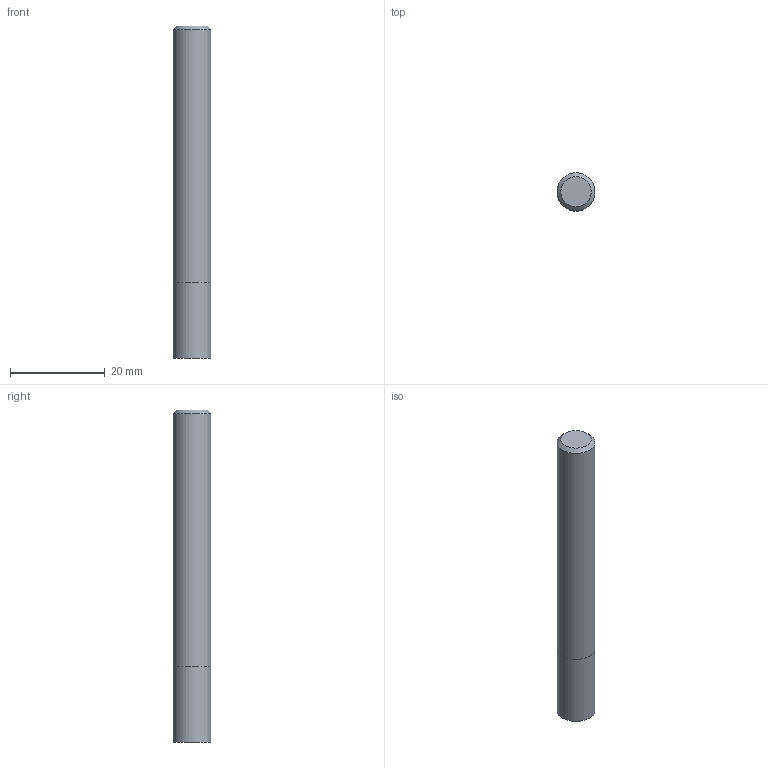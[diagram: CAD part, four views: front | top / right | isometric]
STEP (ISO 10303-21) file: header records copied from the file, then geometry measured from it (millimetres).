
FILE_DESCRIPTION((''),'2;1');
FILE_NAME('C:\Users\nsx150\AppData\Local\Temp\Mastercam 2021\W9Z147XDNF\TEMP.step','2021-04-08T14:30:10',(''),(''),'STEP Write','Mastercam 2021 ... CNC Software, Inc.','');
FILE_SCHEMA(('AUTOMOTIVE_DESIGN'));
Length unit declared in the file: millimetre
Products named in the file (1): None
Bounding box: 8 x 8 x 70 mm (x, y, z)
Volume: 3511.1 mm3; surface area: 1947.7 mm2
Topology: 2 solids, 2 shells, 7 faces, 8 edges, 5 vertices
Faces by surface type: plane 4, cylinder 2, cone 1
Full cylindrical faces by diameter (mm): 8 x2
Entity records: 169 total; most frequent: DIRECTION 28, CARTESIAN_POINT 19, AXIS2_PLACEMENT_3D 14, ORIENTED_EDGE 10, EDGE_LOOP 10, STYLED_ITEM 10, ADVANCED_FACE 7, VERTEX_POINT 5
